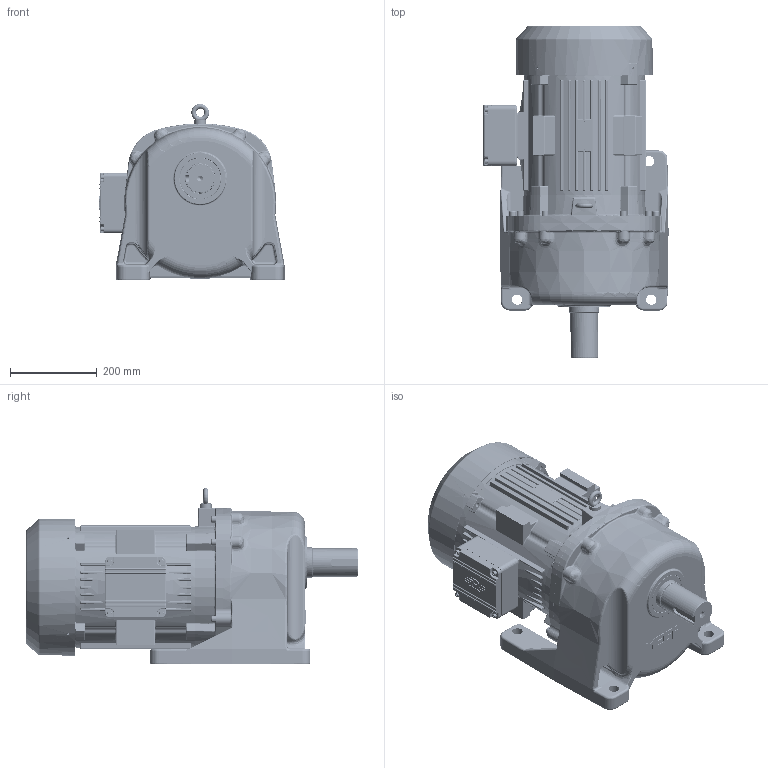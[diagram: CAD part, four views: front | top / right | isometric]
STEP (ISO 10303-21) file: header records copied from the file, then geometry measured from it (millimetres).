
FILE_DESCRIPTION(/* description */ (''),/* implementation_level */ '2;1');
FILE_NAME(/* name */ 'Z:\동력 3D 파일\PML235_11kW_3D.stp',/* time_stamp */ '2021-11-30T17:20:12+09:00',/* author */ ('jaebok'),/* organization */ (''),/* preprocessor_version */ 'ST-DEVELOPER v18.1',/* originating_system */ 'Autodesk Inventor 2022',/* authorisation */ '');
FILE_SCHEMA (('AUTOMOTIVE_DESIGN { 1 0 10303 214 3 1 1 }'));
Length unit declared in the file: millimetre
Products named in the file (1): 부품31
Bounding box: 427.9 x 767.2 x 407.49 mm (x, y, z)
Volume: 16050662.3 mm3; surface area: 2655993.2 mm2
Topology: 3 solids, 28 shells, 6393 faces, 16179 edges, 9713 vertices
Faces by surface type: cylinder 1824, plane 1784, bspline 1639, torus 638, sphere 292, cone 216
Full cylindrical faces by diameter (mm): 3.242 x4, 4.134 x4, 4.917 x9, 5 x13, 6 x4, 6.5 x8, 6.647 x17, 7 x1, 8 x4, 8.376 x1, 9.5 x4, 10 x20, 12 x9, 13 x8, 13.2 x1, 13.835 x2, 15 x1, 16 x8, 20 x1, 24 x4, 28 x1, 34 x1, 37 x1, 40 x1, 50 x1, 55 x1, 65 x1, 68 x2, 70 x5, 72 x1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
Entity records: 239636 total; most frequent: CARTESIAN_POINT 88231, ORIENTED_EDGE 31724, DIRECTION 28069, EDGE_CURVE 15862, AXIS2_PLACEMENT_3D 10722, VERTEX_POINT 9714, EDGE_LOOP 6932, LINE 6625
